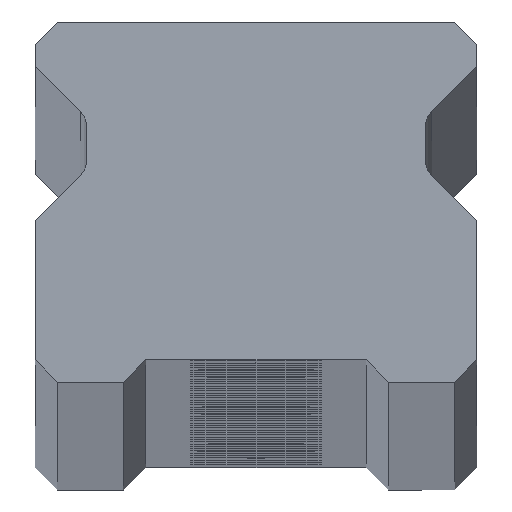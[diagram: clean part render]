
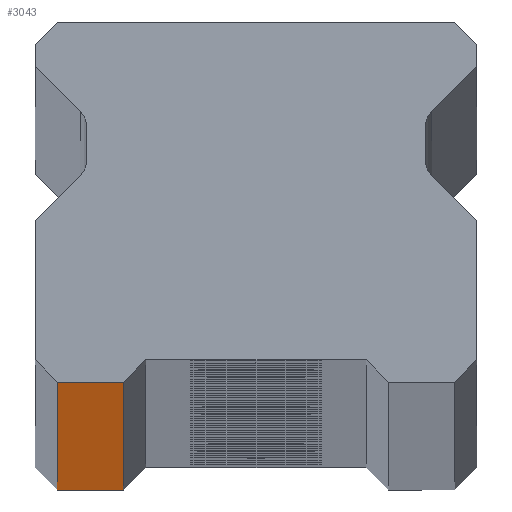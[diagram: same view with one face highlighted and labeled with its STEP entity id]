
A CAD part, top view. The second image highlights one B-rep face of the part: STEP entity #3043.
In plain terms, the highlighted planar face has unit normal (0, -1, 0).
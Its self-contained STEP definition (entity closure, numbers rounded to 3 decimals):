
#13 = CARTESIAN_POINT ( 'NONE',  ( -6., 0., 1400. ) ) ;
#511 = EDGE_LOOP ( 'NONE', ( #4106, #3690, #569, #5999 ) ) ;
#569 = ORIENTED_EDGE ( 'NONE', *, *, #4427, .F. ) ;
#915 = CARTESIAN_POINT ( 'NONE',  ( -6., 0., -1400. ) ) ;
#946 = DIRECTION ( 'NONE',  ( -1., 0., 0. ) ) ;
#1120 = VECTOR ( 'NONE', #3457, 1000. ) ;
#1535 = CARTESIAN_POINT ( 'NONE',  ( -9., 0., 1400. ) ) ;
#1667 = EDGE_CURVE ( 'NONE', #2783, #7262, #2543, .T. ) ;
#1690 = DIRECTION ( 'NONE',  ( 1., 0., 0. ) ) ;
#1843 = LINE ( 'NONE', #4740, #5961 ) ;
#2101 = CARTESIAN_POINT ( 'NONE',  ( 10., 0., -1400. ) ) ;
#2543 = LINE ( 'NONE', #2101, #2823 ) ;
#2546 = AXIS2_PLACEMENT_3D ( 'NONE', #6003, #6034, #946 ) ;
#2588 = LINE ( 'NONE', #5988, #1120 ) ;
#2783 = VERTEX_POINT ( 'NONE', #5358 ) ;
#2823 = VECTOR ( 'NONE', #7251, 1000. ) ;
#2918 = FACE_OUTER_BOUND ( 'NONE', #511, .T. ) ;
#3043 = ADVANCED_FACE ( 'NONE', ( #2918 ), #3524, .F. ) ;
#3457 = DIRECTION ( 'NONE',  ( 0., 0., 1. ) ) ;
#3474 = EDGE_CURVE ( 'NONE', #7819, #2783, #1843, .T. ) ;
#3524 = PLANE ( 'NONE',  #2546 ) ;
#3690 = ORIENTED_EDGE ( 'NONE', *, *, #6100, .T. ) ;
#4106 = ORIENTED_EDGE ( 'NONE', *, *, #1667, .T. ) ;
#4129 = CARTESIAN_POINT ( 'NONE',  ( 10., 0., 1400. ) ) ;
#4147 = DIRECTION ( 'NONE',  ( 0., 0., -1. ) ) ;
#4427 = EDGE_CURVE ( 'NONE', #7819, #7440, #7657, .T. ) ;
#4740 = CARTESIAN_POINT ( 'NONE',  ( -9., 0., 1400. ) ) ;
#5358 = CARTESIAN_POINT ( 'NONE',  ( -9., 0., -1400. ) ) ;
#5961 = VECTOR ( 'NONE', #4147, 1000. ) ;
#5988 = CARTESIAN_POINT ( 'NONE',  ( -6., 0., -1400. ) ) ;
#5999 = ORIENTED_EDGE ( 'NONE', *, *, #3474, .T. ) ;
#6003 = CARTESIAN_POINT ( 'NONE',  ( 10., 0., 1400. ) ) ;
#6034 = DIRECTION ( 'NONE',  ( 0., 1., 0. ) ) ;
#6100 = EDGE_CURVE ( 'NONE', #7262, #7440, #2588, .T. ) ;
#6965 = VECTOR ( 'NONE', #1690, 1000. ) ;
#7251 = DIRECTION ( 'NONE',  ( 1., 0., 0. ) ) ;
#7262 = VERTEX_POINT ( 'NONE', #915 ) ;
#7440 = VERTEX_POINT ( 'NONE', #13 ) ;
#7657 = LINE ( 'NONE', #4129, #6965 ) ;
#7819 = VERTEX_POINT ( 'NONE', #1535 ) ;
